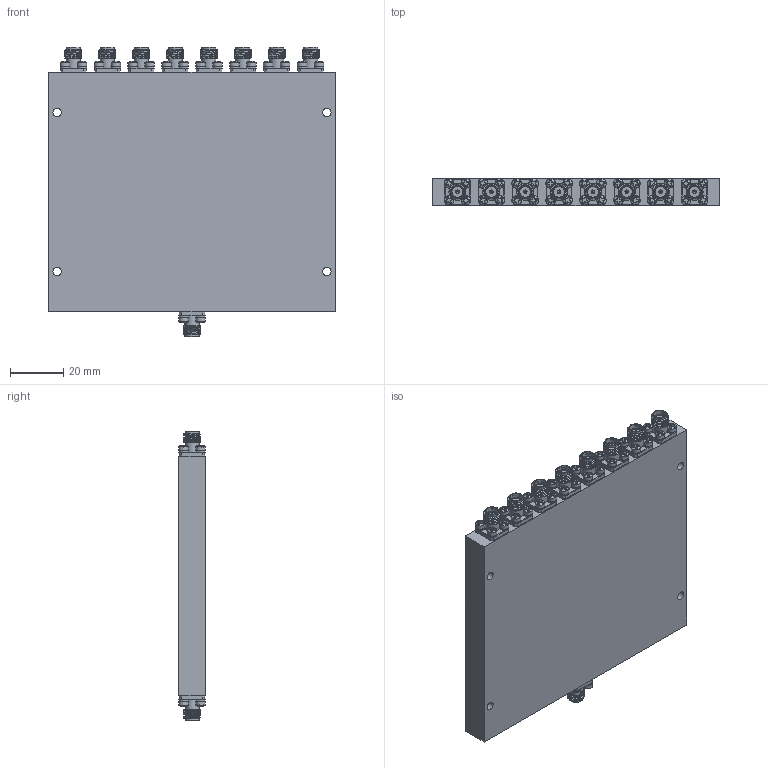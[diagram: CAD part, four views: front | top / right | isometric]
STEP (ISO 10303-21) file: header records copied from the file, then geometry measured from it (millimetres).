
FILE_DESCRIPTION (( 'STEP AP214' ), '1' );
FILE_NAME ('APD-8-2G18G-SFF-30W.STEP', '2026-08-21T21:32:47', ( '' ), ( '' ), 'SwSTEP 2.0', 'SolidWorks 2025', '' );
FILE_SCHEMA (( 'AUTOMOTIVE_DESIGN' ));
Length unit declared in the file: inch
Products named in the file (1): APD-8-2G18G-SFF-30W
Bounding box: 107.44 x 10.06 x 108.51 mm (x, y, z)
Volume: 100265 mm3; surface area: 50819.3 mm2
Topology: 119 solids, 119 shells, 2107 faces, 5606 edges, 3985 vertices
Faces by surface type: plane 1208, cylinder 440, torus 207, cone 198, sphere 36, bspline 18
Full cylindrical faces by diameter (mm): 0.305 x9, 0.381 x9, 0.635 x9, 1.016 x9, 1.27 x9, 1.702 x36, 2.184 x36, 3.175 x4, 3.302 x9, 3.556 x36, 4.191 x18, 4.597 x9, 5.283 x18
Entity records: 99791 total; most frequent: CARTESIAN_POINT 22933, DIRECTION 10186, ORIENTED_EDGE 10124, EDGE_CURVE 5062, VERTEX_POINT 3913, AXIS2_PLACEMENT_3D 3898, EDGE_LOOP 2907, FACE_OUTER_BOUND 2561
